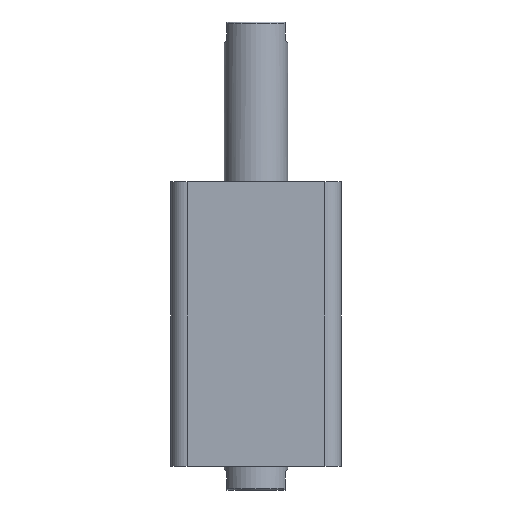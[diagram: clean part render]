
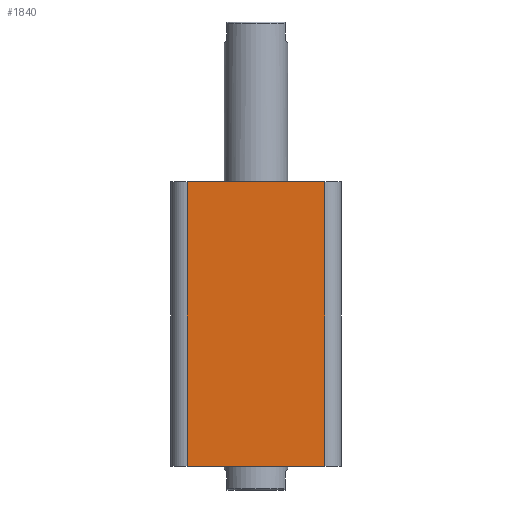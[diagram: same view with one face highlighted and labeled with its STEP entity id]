
A CAD part, front view. The second image highlights one B-rep face of the part: STEP entity #1840.
In plain terms, the highlighted planar face has unit normal (0, -1, 0).
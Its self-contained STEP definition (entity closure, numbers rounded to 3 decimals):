
#319 = EDGE_LOOP ( 'NONE', ( #1404, #1405, #1408, #1402 ) ) ;
#547 = VERTEX_POINT ( 'NONE', #2112 ) ;
#556 = VERTEX_POINT ( 'NONE', #2121 ) ;
#557 = VERTEX_POINT ( 'NONE', #2122 ) ;
#558 = VERTEX_POINT ( 'NONE', #2123 ) ;
#619 = VECTOR ( 'NONE', #2134, 1000. ) ;
#624 = LINE ( 'NONE', #2129, #632 ) ;
#625 = LINE ( 'NONE', #2131, #627 ) ;
#626 = LINE ( 'NONE', #2135, #629 ) ;
#627 = VECTOR ( 'NONE', #2133, 1000. ) ;
#628 = LINE ( 'NONE', #2132, #619 ) ;
#629 = VECTOR ( 'NONE', #2136, 1000. ) ;
#632 = VECTOR ( 'NONE', #2130, 1000. ) ;
#669 = FACE_OUTER_BOUND ( 'NONE', #319, .T. ) ;
#992 = EDGE_CURVE ( 'NONE', #547, #556, #624, .T. ) ;
#993 = EDGE_CURVE ( 'NONE', #547, #557, #625, .T. ) ;
#994 = EDGE_CURVE ( 'NONE', #557, #558, #628, .T. ) ;
#995 = EDGE_CURVE ( 'NONE', #558, #556, #626, .T. ) ;
#1402 = ORIENTED_EDGE ( 'NONE', *, *, #995, .T. ) ;
#1404 = ORIENTED_EDGE ( 'NONE', *, *, #992, .F. ) ;
#1405 = ORIENTED_EDGE ( 'NONE', *, *, #993, .T. ) ;
#1408 = ORIENTED_EDGE ( 'NONE', *, *, #994, .T. ) ;
#1840 = ADVANCED_FACE ( 'NONE', ( #669 ), #2279, .F. ) ;
#2112 = CARTESIAN_POINT ( 'NONE',  ( -38., -47., 157. ) ) ;
#2121 = CARTESIAN_POINT ( 'NONE',  ( 38., -47., 157. ) ) ;
#2122 = CARTESIAN_POINT ( 'NONE',  ( -38., -47., 0. ) ) ;
#2123 = CARTESIAN_POINT ( 'NONE',  ( 38., -47., 0. ) ) ;
#2129 = CARTESIAN_POINT ( 'NONE',  ( -47., -47., 157. ) ) ;
#2130 = DIRECTION ( 'NONE',  ( 1., 0., 0. ) ) ;
#2131 = CARTESIAN_POINT ( 'NONE',  ( -38., -47., 157. ) ) ;
#2132 = CARTESIAN_POINT ( 'NONE',  ( -47., -47., 0. ) ) ;
#2133 = DIRECTION ( 'NONE',  ( 0., 0., -1. ) ) ;
#2134 = DIRECTION ( 'NONE',  ( 1., 0., 0. ) ) ;
#2135 = CARTESIAN_POINT ( 'NONE',  ( 38., -47., 157. ) ) ;
#2136 = DIRECTION ( 'NONE',  ( 0., 0., 1. ) ) ;
#2277 = CARTESIAN_POINT ( 'NONE',  ( -47., -47., 157. ) ) ;
#2279 = PLANE ( 'NONE',  #3014 ) ;
#2281 = DIRECTION ( 'NONE',  ( 0., 1., 0. ) ) ;
#2282 = DIRECTION ( 'NONE',  ( 0., 0., 1. ) ) ;
#3014 = AXIS2_PLACEMENT_3D ( 'NONE', #2277, #2281, #2282 ) ;
